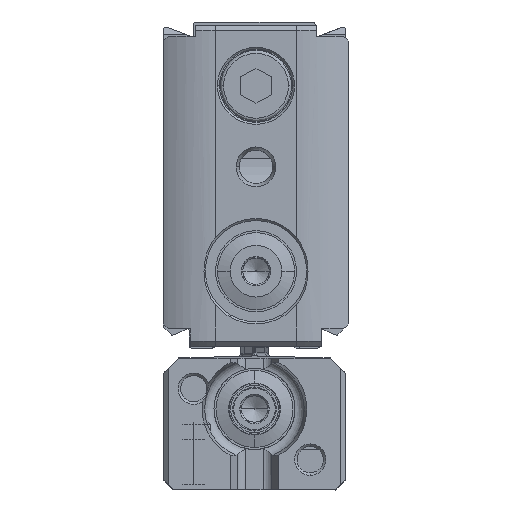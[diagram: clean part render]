
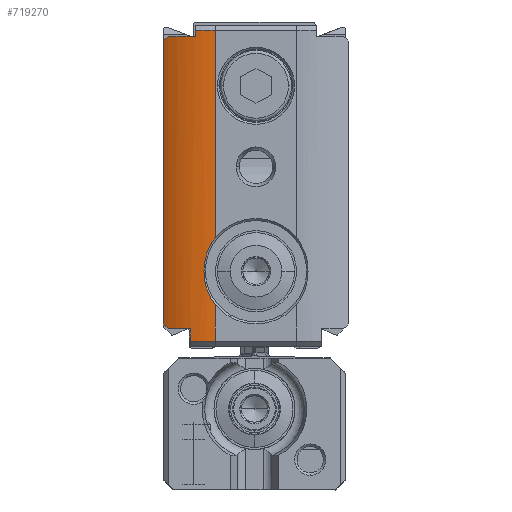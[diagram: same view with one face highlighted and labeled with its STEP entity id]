
A CAD part, left-side view. The second image highlights one B-rep face of the part: STEP entity #719270.
In plain terms, the highlighted cylindrical face has radius 10 mm (diameter 20 mm), a partial arc.
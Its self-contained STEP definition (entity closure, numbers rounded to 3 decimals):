
#713600=CARTESIAN_POINT('',(-513.638,34.15,
-50.083));
#713610=VERTEX_POINT('',#713600);
#714100=CARTESIAN_POINT('',(-513.333,31.7,
-50.083));
#714110=VERTEX_POINT('',#714100);
#714140=CARTESIAN_POINT('',(-503.638,34.15,
-50.083));
#714150=DIRECTION('',(0.,0.,-1.));
#714160=DIRECTION('',(0.,-1.,0.));
#714170=AXIS2_PLACEMENT_3D('',#714140,#714150,#714160);
#714180=CIRCLE('',#714170,10.);
#714190=EDGE_CURVE('',#714110,#713610,#714180,.T.);
#717760=CARTESIAN_POINT('',(-503.638,34.15,
-51.283));
#717770=DIRECTION('',(0.,0.,-1.));
#717780=DIRECTION('',(0.,-1.,0.));
#717790=AXIS2_PLACEMENT_3D('',#717760,#717770,#717780);
#717800=CIRCLE('',#717790,10.);
#717810=CARTESIAN_POINT('',(-512.491,29.5,
-51.283));
#717820=VERTEX_POINT('',#717810);
#717830=CARTESIAN_POINT('',(-513.333,31.7,
-51.283));
#717840=VERTEX_POINT('',#717830);
#717850=EDGE_CURVE('',#717820,#717840,#717800,.T.);
#718140=CARTESIAN_POINT('',(-513.333,31.7,
-81.283));
#718150=DIRECTION('',(0.,0.,-1.));
#718160=VECTOR('',#718150,1.);
#718170=LINE('',#718140,#718160);
#718180=EDGE_CURVE('',#714110,#717840,#718170,.T.);
#718250=CARTESIAN_POINT('',(-503.638,34.15,
-81.283));
#718260=DIRECTION('',(0.,0.,-1.));
#718270=DIRECTION('',(0.,-1.,0.));
#718280=AXIS2_PLACEMENT_3D('',#718250,#718260,#718270);
#718290=CYLINDRICAL_SURFACE('',#718280,10.);
#718300=ORIENTED_EDGE('',*,*,#718180,.F.);
#718310=ORIENTED_EDGE('',*,*,#717850,.T.);
#718320=CARTESIAN_POINT('',(-503.638,34.15,
-46.633));
#718330=DIRECTION('',(0.,-0.707,
0.707));
#718340=DIRECTION('',(0.,-0.707,
-0.707));
#718350=AXIS2_PLACEMENT_3D('',#718320,#718330,#718340);
#718360=ELLIPSE('',#718350,14.142,10.);
#718370=CARTESIAN_POINT('',(-512.21,29.,
-51.783));
#718380=VERTEX_POINT('',#718370);
#718390=EDGE_CURVE('',#717820,#718380,#718360,.T.);
#718400=ORIENTED_EDGE('',*,*,#718390,.F.);
#718410=CARTESIAN_POINT('',(-512.21,29.,
-81.283));
#718420=DIRECTION('',(0.,0.,-1.));
#718430=VECTOR('',#718420,1.);
#718440=LINE('',#718410,#718430);
#718450=CARTESIAN_POINT('',(-512.21,29.,
-79.683));
#718460=VERTEX_POINT('',#718450);
#718470=EDGE_CURVE('',#718380,#718460,#718440,.T.);
#718480=ORIENTED_EDGE('',*,*,#718470,.F.);
#718490=CARTESIAN_POINT('',(-503.638,34.15,
-84.833));
#718500=DIRECTION('',(0.,-0.707,
-0.707));
#718510=DIRECTION('',(0.,-0.707,
0.707));
#718520=AXIS2_PLACEMENT_3D('',#718490,#718500,#718510);
#718530=ELLIPSE('',#718520,14.142,10.);
#718540=CARTESIAN_POINT('',(-512.491,29.5,
-80.183));
#718550=VERTEX_POINT('',#718540);
#718560=EDGE_CURVE('',#718460,#718550,#718530,.T.);
#718570=ORIENTED_EDGE('',*,*,#718560,.F.);
#718580=CARTESIAN_POINT('',(-503.638,34.15,
-80.183));
#718590=DIRECTION('',(0.,0.,-1.));
#718600=DIRECTION('',(0.,-1.,0.));
#718610=AXIS2_PLACEMENT_3D('',#718580,#718590,#718600);
#718620=CIRCLE('',#718610,10.);
#718630=CARTESIAN_POINT('',(-513.436,32.15,
-80.183));
#718640=VERTEX_POINT('',#718630);
#718650=EDGE_CURVE('',#718550,#718640,#718620,.T.);
#718660=ORIENTED_EDGE('',*,*,#718650,.F.);
#718670=CARTESIAN_POINT('',(-513.436,32.15,
-81.283));
#718680=DIRECTION('',(0.,0.,-1.));
#718690=VECTOR('',#718680,1.);
#718700=LINE('',#718670,#718690);
#718710=CARTESIAN_POINT('',(-513.436,32.15,
-80.783));
#718720=VERTEX_POINT('',#718710);
#718730=EDGE_CURVE('',#718640,#718720,#718700,.T.);
#718740=ORIENTED_EDGE('',*,*,#718730,.F.);
#718750=CARTESIAN_POINT('',(-503.638,34.15,
-80.783));
#718760=DIRECTION('',(0.,0.,-1.));
#718770=DIRECTION('',(0.,-1.,0.));
#718780=AXIS2_PLACEMENT_3D('',#718750,#718760,#718770);
#718790=CIRCLE('',#718780,10.);
#718800=CARTESIAN_POINT('',(-513.638,34.15,
-80.783));
#718810=VERTEX_POINT('',#718800);
#718820=EDGE_CURVE('',#718720,#718810,#718790,.T.);
#718830=ORIENTED_EDGE('',*,*,#718820,.F.);
#718840=CARTESIAN_POINT('',(-513.638,34.15,
-37.853));
#718850=DIRECTION('',(0.,0.,-1.));
#718860=VECTOR('',#718850,1.);
#718870=LINE('',#718840,#718860);
#718880=CARTESIAN_POINT('',(-513.638,34.15,
-60.306));
#718890=VERTEX_POINT('',#718880);
#718900=EDGE_CURVE('',#718890,#718810,#718870,.T.);
#718910=ORIENTED_EDGE('',*,*,#718900,.T.);
#718920=CARTESIAN_POINT('',(-513.573,33.015,
-56.983));
#718930=CARTESIAN_POINT('',(-513.573,33.015,
-57.28));
#718940=CARTESIAN_POINT('',(-513.576,33.038,
-57.579));
#718950=CARTESIAN_POINT('',(-513.586,33.132,
-58.17));
#718960=CARTESIAN_POINT('',(-513.593,33.202,
-58.462));
#718970=CARTESIAN_POINT('',(-513.609,33.39,
-59.027));
#718980=CARTESIAN_POINT('',(-513.618,33.507,
-59.3));
#718990=CARTESIAN_POINT('',(-513.632,33.792,
-59.826));
#719000=CARTESIAN_POINT('',(-513.638,33.96,
-60.077));
#719010=CARTESIAN_POINT('',(-513.638,34.15,
-60.306));
#719020=B_SPLINE_CURVE_WITH_KNOTS('',3,(#718920,#718930,#718940,#718950,
#718960,#718970,#718980,#718990,#719000,#719010),.UNSPECIFIED.,.F.,.F.,(
4,2,2,2,4),(0.,0.896,1.794,2.688,
3.586),.UNSPECIFIED.);
#719030=CARTESIAN_POINT('',(-513.573,33.015,
-56.983));
#719040=VERTEX_POINT('',#719030);
#719050=EDGE_CURVE('',#719040,#718890,#719020,.T.);
#719060=ORIENTED_EDGE('',*,*,#719050,.T.);
#719070=CARTESIAN_POINT('',(-513.638,34.15,
-53.66));
#719080=CARTESIAN_POINT('',(-513.638,33.96,
-53.89));
#719090=CARTESIAN_POINT('',(-513.632,33.792,
-54.14));
#719100=CARTESIAN_POINT('',(-513.618,33.507,
-54.666));
#719110=CARTESIAN_POINT('',(-513.609,33.39,
-54.939));
#719120=CARTESIAN_POINT('',(-513.593,33.202,
-55.504));
#719130=CARTESIAN_POINT('',(-513.586,33.132,
-55.796));
#719140=CARTESIAN_POINT('',(-513.576,33.038,
-56.388));
#719150=CARTESIAN_POINT('',(-513.573,33.015,
-56.687));
#719160=CARTESIAN_POINT('',(-513.573,33.015,
-56.983));
#719170=B_SPLINE_CURVE_WITH_KNOTS('',3,(#719070,#719080,#719090,#719100,
#719110,#719120,#719130,#719140,#719150,#719160),.UNSPECIFIED.,.F.,.F.,(
4,2,2,2,4),(0.,0.898,1.792,2.69,
3.586),.UNSPECIFIED.);
#719180=CARTESIAN_POINT('',(-513.638,34.15,
-53.66));
#719190=VERTEX_POINT('',#719180);
#719200=EDGE_CURVE('',#719190,#719040,#719170,.T.);
#719210=ORIENTED_EDGE('',*,*,#719200,.T.);
#719220=EDGE_CURVE('',#713610,#719190,#718870,.T.);
#719230=ORIENTED_EDGE('',*,*,#719220,.T.);
#719240=ORIENTED_EDGE('',*,*,#714190,.T.);
#719250=EDGE_LOOP('',(#719240,#719230,#719210,#719060,#718910,#718830,
#718740,#718660,#718570,#718480,#718400,#718310,#718300));
#719260=FACE_OUTER_BOUND('',#719250,.T.);
#719270=ADVANCED_FACE('',(#719260),#718290,.T.);
